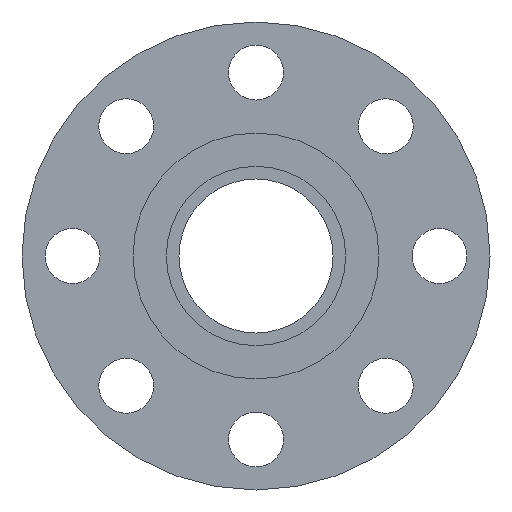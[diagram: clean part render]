
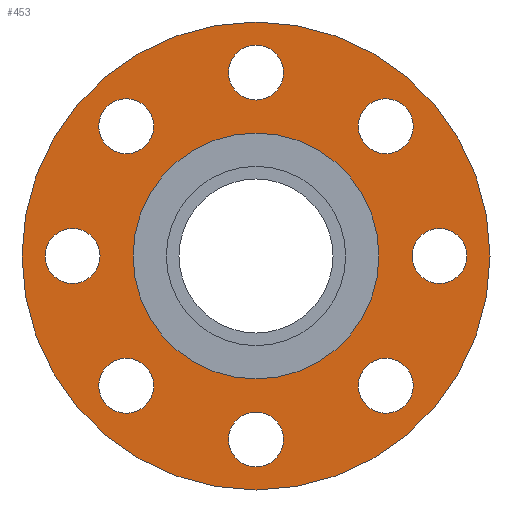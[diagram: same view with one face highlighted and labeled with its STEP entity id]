
A CAD part, left-side view. The second image highlights one B-rep face of the part: STEP entity #453.
In plain terms, the highlighted planar face has unit normal (-1, 0, 0).
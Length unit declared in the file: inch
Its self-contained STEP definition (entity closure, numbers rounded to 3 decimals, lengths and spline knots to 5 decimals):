
#14=FACE_BOUND('',#76,.T.);
#15=FACE_BOUND('',#77,.T.);
#16=FACE_BOUND('',#78,.T.);
#17=FACE_BOUND('',#79,.T.);
#18=FACE_BOUND('',#80,.T.);
#19=FACE_BOUND('',#81,.T.);
#20=FACE_BOUND('',#82,.T.);
#21=FACE_BOUND('',#83,.T.);
#22=FACE_BOUND('',#84,.T.);
#37=PLANE('',#515);
#53=FACE_OUTER_BOUND('',#75,.T.);
#75=EDGE_LOOP('',(#326,#327));
#76=EDGE_LOOP('',(#328));
#77=EDGE_LOOP('',(#329));
#78=EDGE_LOOP('',(#330));
#79=EDGE_LOOP('',(#331));
#80=EDGE_LOOP('',(#332));
#81=EDGE_LOOP('',(#333));
#82=EDGE_LOOP('',(#334));
#83=EDGE_LOOP('',(#335));
#84=EDGE_LOOP('',(#336,#337));
#142=CIRCLE('',#488,0.44);
#144=CIRCLE('',#491,0.44);
#146=CIRCLE('',#494,0.44);
#148=CIRCLE('',#497,0.44);
#150=CIRCLE('',#500,0.44);
#152=CIRCLE('',#503,0.44);
#154=CIRCLE('',#506,0.44);
#156=CIRCLE('',#509,0.44);
#157=CIRCLE('',#511,3.75);
#158=CIRCLE('',#512,3.75);
#161=CIRCLE('',#516,1.97);
#162=CIRCLE('',#517,1.97);
#186=VERTEX_POINT('',#705);
#188=VERTEX_POINT('',#711);
#190=VERTEX_POINT('',#717);
#192=VERTEX_POINT('',#723);
#194=VERTEX_POINT('',#729);
#196=VERTEX_POINT('',#735);
#198=VERTEX_POINT('',#741);
#200=VERTEX_POINT('',#747);
#201=VERTEX_POINT('',#751);
#202=VERTEX_POINT('',#752);
#205=VERTEX_POINT('',#761);
#206=VERTEX_POINT('',#762);
#231=EDGE_CURVE('',#186,#186,#142,.T.);
#234=EDGE_CURVE('',#188,#188,#144,.T.);
#237=EDGE_CURVE('',#190,#190,#146,.T.);
#240=EDGE_CURVE('',#192,#192,#148,.T.);
#243=EDGE_CURVE('',#194,#194,#150,.T.);
#246=EDGE_CURVE('',#196,#196,#152,.T.);
#249=EDGE_CURVE('',#198,#198,#154,.T.);
#252=EDGE_CURVE('',#200,#200,#156,.T.);
#253=EDGE_CURVE('',#201,#202,#157,.T.);
#254=EDGE_CURVE('',#202,#201,#158,.T.);
#258=EDGE_CURVE('',#205,#206,#161,.T.);
#259=EDGE_CURVE('',#206,#205,#162,.T.);
#326=ORIENTED_EDGE('',*,*,#253,.T.);
#327=ORIENTED_EDGE('',*,*,#254,.T.);
#328=ORIENTED_EDGE('',*,*,#231,.T.);
#329=ORIENTED_EDGE('',*,*,#234,.T.);
#330=ORIENTED_EDGE('',*,*,#237,.T.);
#331=ORIENTED_EDGE('',*,*,#240,.T.);
#332=ORIENTED_EDGE('',*,*,#243,.T.);
#333=ORIENTED_EDGE('',*,*,#246,.T.);
#334=ORIENTED_EDGE('',*,*,#249,.T.);
#335=ORIENTED_EDGE('',*,*,#252,.T.);
#336=ORIENTED_EDGE('',*,*,#258,.F.);
#337=ORIENTED_EDGE('',*,*,#259,.F.);
#453=ADVANCED_FACE('',(#53,#14,#15,#16,#17,#18,#19,#20,#21,#22),#37,.T.);
#488=AXIS2_PLACEMENT_3D('',#707,#559,#560);
#491=AXIS2_PLACEMENT_3D('',#713,#566,#567);
#494=AXIS2_PLACEMENT_3D('',#719,#573,#574);
#497=AXIS2_PLACEMENT_3D('',#725,#580,#581);
#500=AXIS2_PLACEMENT_3D('',#731,#587,#588);
#503=AXIS2_PLACEMENT_3D('',#737,#594,#595);
#506=AXIS2_PLACEMENT_3D('',#743,#601,#602);
#509=AXIS2_PLACEMENT_3D('',#749,#608,#609);
#511=AXIS2_PLACEMENT_3D('',#753,#612,#613);
#512=AXIS2_PLACEMENT_3D('',#754,#614,#615);
#515=AXIS2_PLACEMENT_3D('',#760,#621,#622);
#516=AXIS2_PLACEMENT_3D('',#763,#623,#624);
#517=AXIS2_PLACEMENT_3D('',#764,#625,#626);
#559=DIRECTION('center_axis',(1.,0.,0.));
#560=DIRECTION('ref_axis',(0.,-0.707,0.707));
#566=DIRECTION('center_axis',(1.,0.,0.));
#567=DIRECTION('ref_axis',(0.,-1.,0.));
#573=DIRECTION('center_axis',(1.,0.,0.));
#574=DIRECTION('ref_axis',(0.,-0.707,-0.707));
#580=DIRECTION('center_axis',(1.,0.,0.));
#581=DIRECTION('ref_axis',(0.,0.,-1.));
#587=DIRECTION('center_axis',(1.,0.,0.));
#588=DIRECTION('ref_axis',(0.,0.707,-0.707));
#594=DIRECTION('center_axis',(1.,0.,0.));
#595=DIRECTION('ref_axis',(0.,1.,0.));
#601=DIRECTION('center_axis',(1.,0.,0.));
#602=DIRECTION('ref_axis',(0.,0.707,0.707));
#608=DIRECTION('center_axis',(1.,0.,0.));
#609=DIRECTION('ref_axis',(0.,0.,1.));
#612=DIRECTION('center_axis',(-1.,0.,0.));
#613=DIRECTION('ref_axis',(0.,0.,1.));
#614=DIRECTION('center_axis',(-1.,0.,0.));
#615=DIRECTION('ref_axis',(0.,0.,1.));
#621=DIRECTION('center_axis',(-1.,0.,0.));
#622=DIRECTION('ref_axis',(0.,0.,1.));
#623=DIRECTION('center_axis',(-1.,0.,0.));
#624=DIRECTION('ref_axis',(0.,0.,1.));
#625=DIRECTION('center_axis',(-1.,0.,0.));
#626=DIRECTION('ref_axis',(0.,0.,1.));
#705=CARTESIAN_POINT('',(-1.,2.39002,-2.39002));
#707=CARTESIAN_POINT('Origin',(-1.,2.07889,-2.07889));
#711=CARTESIAN_POINT('',(-1.,3.38,0.));
#713=CARTESIAN_POINT('Origin',(-1.,2.94,0.));
#717=CARTESIAN_POINT('',(-1.,2.39002,2.39002));
#719=CARTESIAN_POINT('Origin',(-1.,2.07889,2.07889));
#723=CARTESIAN_POINT('',(-1.,0.,3.38));
#725=CARTESIAN_POINT('Origin',(-1.,0.,
2.94));
#729=CARTESIAN_POINT('',(-1.,-2.39002,2.39002));
#731=CARTESIAN_POINT('Origin',(-1.,-2.07889,2.07889));
#735=CARTESIAN_POINT('',(-1.,-3.38,0.));
#737=CARTESIAN_POINT('Origin',(-1.,-2.94,0.));
#741=CARTESIAN_POINT('',(-1.,-2.39002,-2.39002));
#743=CARTESIAN_POINT('Origin',(-1.,-2.07889,-2.07889));
#747=CARTESIAN_POINT('',(-1.,0.,-3.38));
#749=CARTESIAN_POINT('Origin',(-1.,0.,
-2.94));
#751=CARTESIAN_POINT('',(-1.,0.,3.75));
#752=CARTESIAN_POINT('',(-1.,0.,-3.75));
#753=CARTESIAN_POINT('Origin',(-1.,0.,0.));
#754=CARTESIAN_POINT('Origin',(-1.,0.,0.));
#760=CARTESIAN_POINT('Origin',(-1.,0.,2.86));
#761=CARTESIAN_POINT('',(-1.,0.,1.97));
#762=CARTESIAN_POINT('',(-1.,0.,-1.97));
#763=CARTESIAN_POINT('Origin',(-1.,0.,0.));
#764=CARTESIAN_POINT('Origin',(-1.,0.,0.));
